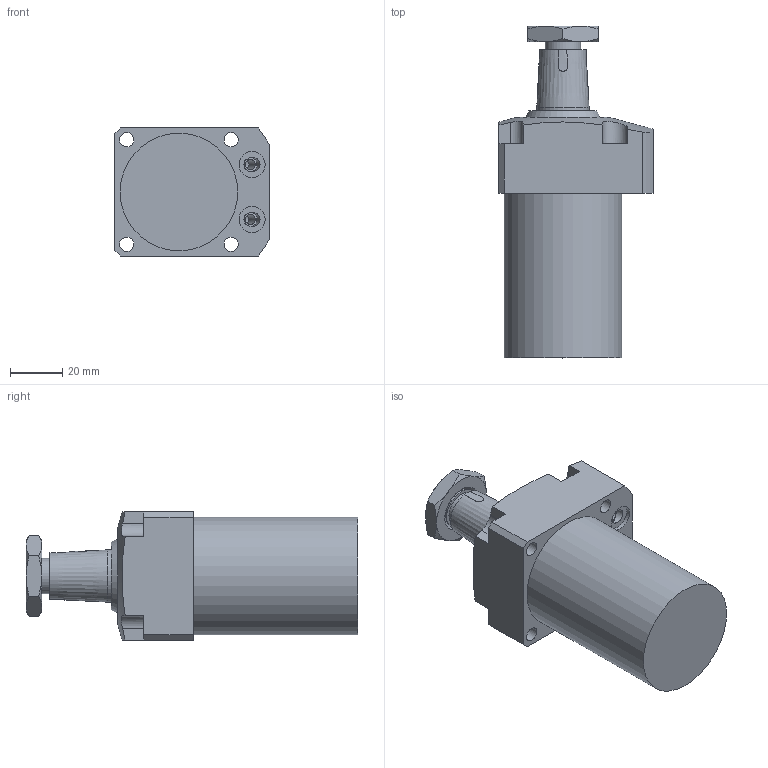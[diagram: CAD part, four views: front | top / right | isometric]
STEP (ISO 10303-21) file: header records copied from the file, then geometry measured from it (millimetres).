
FILE_DESCRIPTION( ( '' ), '1' );
FILE_NAME( 'W:/Catalogue/JF6H/JF6H35-20/JF6H35-20.stp', '2008-05-26T00:56:04', ( '機械事業部産業機器グループ' ), ( '豊和工業株式会社' ), 'XStep 1.0', ' ', ' ' );
FILE_SCHEMA( ( 'CONFIG_CONTROL_DESIGN' ) );
Length unit declared in the file: millimetre
Products named in the file (5): Assem1; 1; 2; 3; 4
Bounding box: 59 x 127 x 49 mm (x, y, z)
Volume: 342513.3 mm3; surface area: 89350.1 mm2
Topology: 9 solids, 13 shells, 296 faces, 663 edges, 423 vertices
Faces by surface type: plane 164, cylinder 70, cone 58, torus 2, sphere 2
Full cylindrical faces by diameter (mm): 2 x2, 4 x4, 5 x2, 5.5 x12, 8.3 x4, 10 x4, 13.5 x2, 16 x4, 20 x4, 22 x2, 27 x2, 32 x4, 35 x6, 40 x2, 45 x2
Entity records: 4122 total; most frequent: CARTESIAN_POINT 1032, DIRECTION 598, ORIENTED_EDGE 500, EDGE_CURVE 250, AXIS2_PLACEMENT_3D 249, EDGE_LOOP 218, VERTEX_POINT 185, FACE_OUTER_BOUND 169
